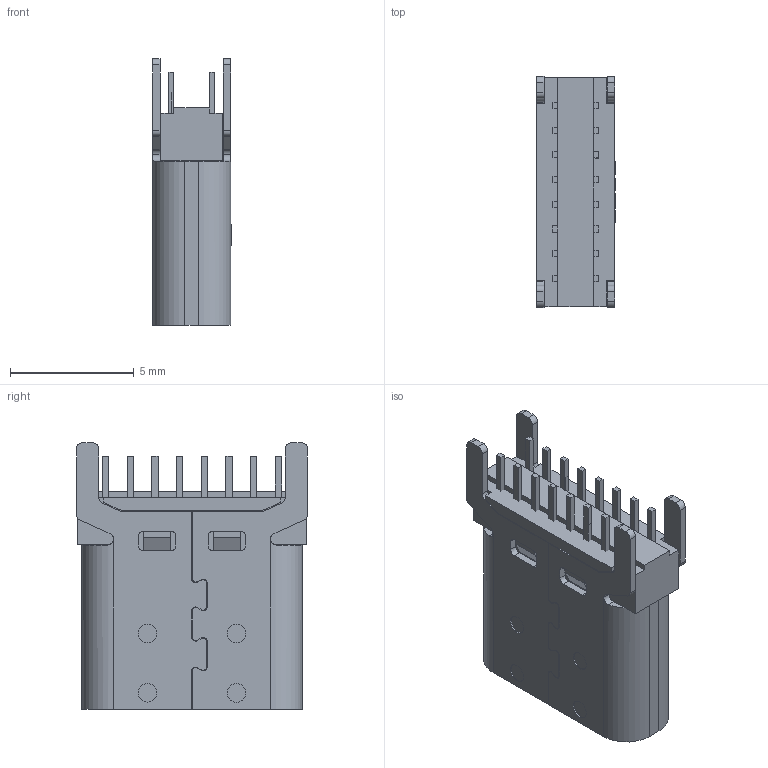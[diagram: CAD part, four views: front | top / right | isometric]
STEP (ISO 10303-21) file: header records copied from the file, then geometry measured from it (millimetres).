
FILE_DESCRIPTION (( 'STEP AP214' ), '1' );
FILE_NAME ('U5425-16PNT2.0J8.8L.STEP', '2026-06-02T08:48:51', ( '' ), ( '' ), 'SwSTEP 2.0', 'SolidWorks 2024', '' );
FILE_SCHEMA (( 'AUTOMOTIVE_DESIGN' ));
Length unit declared in the file: millimetre
Products named in the file (1): U5425-16PNT2.0J8.8L
Bounding box: 3.19 x 9.35 x 10.79 mm (x, y, z)
Volume: 170.3 mm3; surface area: 743 mm2
Topology: 20 solids, 20 shells, 860 faces, 2463 edges, 1665 vertices
Faces by surface type: plane 573, cylinder 258, bspline 25, torus 4
Entity records: 29729 total; most frequent: CARTESIAN_POINT 6592, ORIENTED_EDGE 4926, DIRECTION 4589, EDGE_CURVE 2463, VECTOR 1893, LINE 1893, VERTEX_POINT 1665, AXIS2_PLACEMENT_3D 1348
